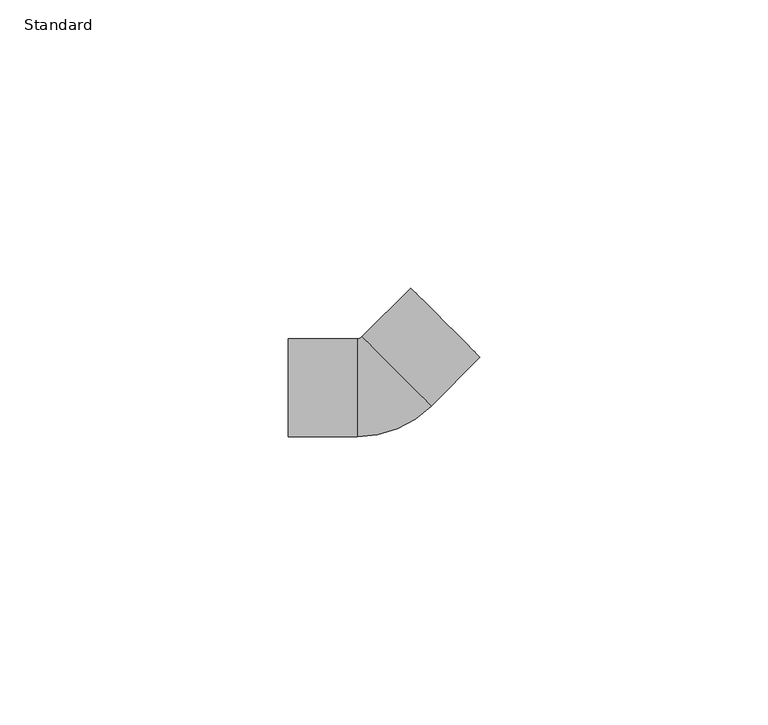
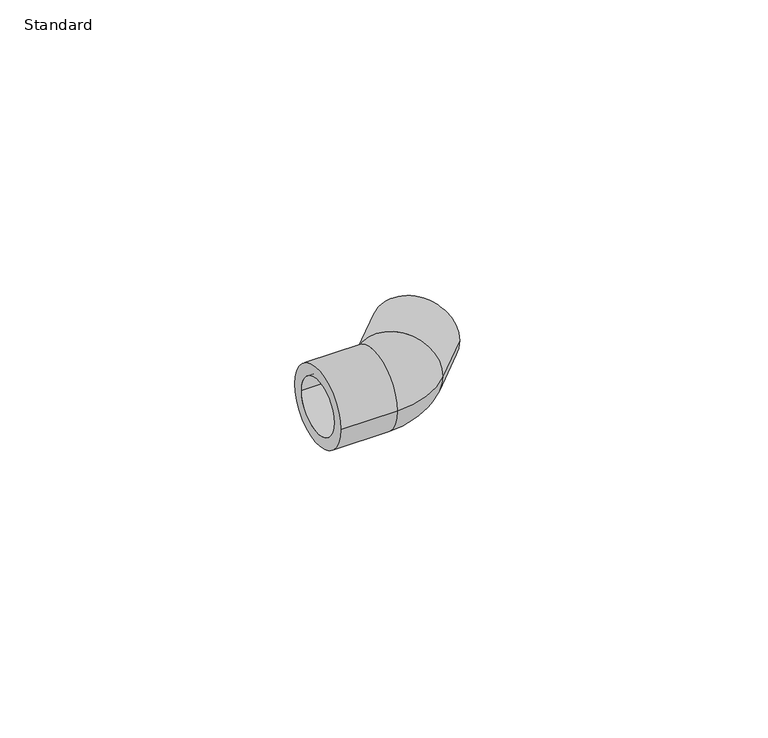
"""IFC4 building model written with IfcOpenShell, lengths in millimetres: pipe fitting geometry, Durapipe_PipeFitting_PVC_Elbow45deg : Standard."""

from ifc_helpers import new_model, si_unit, point, frame, origin, place, context, project, spatial, polyline, circle_curve, ellipse_curve, trimmed, source, transform, mapped, element, save
from ifc_brep_helpers import plane_surface, cylinder_surface, revolved_surface, advanced_brep


def standard_bef04e3c(model_context):
    return source(origin(), model_context, "Body", "AdvancedBrep", [
        advanced_brep(
        [(-16.0, -8.5, 0.0), (-16.0, 8.5, 0.0), (-16.0, -6.0, 0.0), (-16.0, 6.0, 0.0), (-4.0208153, -8.5, 0.0), (-4.0208153, 8.5, 0.0), (8.8535534, -3.1672619, 0.0), (-3.1672619, 8.8535534, 0.0), (17.3241161, 5.3033009, 0.0), (5.3033009, 17.3241161, 0.0), (7.0710678, 15.5563492, 0.0), (15.5563492, 7.0710678, 0.0), (-4.0, 6.0, 0.0), (-4.0, -6.0, 0.0), (-4.0, 0.0, 0.0), (-1.4142136, 7.0710678, 0.0), (2.8284271, 2.8284271, 0.0), (7.0710678, -1.4142136, 0.0)],
        [
            (0, 1, circle_curve(frame((-16.0, 0.0, 0.0), z_axis=(-1.0, 0.0, 0.0), x_axis=(0.0, 1.0, 0.0)), 8.5)),
            (1, 0, circle_curve(frame((-16.0, 0.0, 0.0), z_axis=(-1.0, 0.0, 0.0), x_axis=(0.0, 1.0, 0.0)), 8.5)),
            (2, 3, circle_curve(frame((-16.0, 0.0, 0.0), z_axis=(1.0, 0.0, 0.0), x_axis=(0.0, -1.0, 0.0)), 6.0)),
            (3, 2, circle_curve(frame((-16.0, 0.0, 0.0), z_axis=(1.0, 0.0, 0.0), x_axis=(0.0, -1.0, 0.0)), 6.0)),
            (0, 4),
            (4, 5, circle_curve(frame((-4.0208153, 0.0, 0.0), z_axis=(-1.0, 0.0, 0.0), x_axis=(0.0, 1.0, 0.0)), 8.5)),
            (5, 1),
            (5, 4, circle_curve(frame((-4.0208153, 0.0, 0.0), z_axis=(-1.0, 0.0, 0.0), x_axis=(0.0, 1.0, 0.0)), 8.5)),
            (4, 6, circle_curve(frame((-4.0208153, 9.7071068, 0.0), z_axis=(0.0, 0.0, 1.0), x_axis=(0.0, -1.0, 0.0)), 18.2071068)),
            (6, 7, circle_curve(frame((2.8431458, 2.8431458, 0.0), z_axis=(-0.707106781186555, -0.70710678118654, 0.0), x_axis=(-0.70710678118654, 0.707106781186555, 0.0)), 8.5)),
            (7, 5, circle_curve(frame((-4.0208153, 9.7071068, 0.0), z_axis=(0.0, 0.0, -1.0), x_axis=(0.0, -1.0, 0.0)), 1.2071068)),
            (7, 6, circle_curve(frame((2.8431458, 2.8431458, 0.0), z_axis=(-0.7071067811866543, -0.7071067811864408, 0.0), x_axis=(-0.7071067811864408, 0.7071067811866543, 0.0)), 8.5)),
            (8, 9, circle_curve(frame((11.3137085, 11.3137085, 0.0), z_axis=(0.7071067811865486, 0.7071067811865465, 0.0), x_axis=(-0.7071067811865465, 0.7071067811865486, 0.0)), 8.5)),
            (9, 8, circle_curve(frame((11.3137085, 11.3137085, 0.0), z_axis=(0.7071067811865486, 0.7071067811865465, 0.0), x_axis=(-0.7071067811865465, 0.7071067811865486, 0.0)), 8.5)),
            (10, 11, circle_curve(frame((11.3137085, 11.3137085, 0.0), z_axis=(-0.707106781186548, -0.707106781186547, 0.0), x_axis=(0.707106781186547, -0.707106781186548, 0.0)), 6.0)),
            (11, 10, circle_curve(frame((11.3137085, 11.3137085, 0.0), z_axis=(-0.707106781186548, -0.707106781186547, 0.0), x_axis=(0.707106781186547, -0.707106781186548, 0.0)), 6.0)),
            (6, 8),
            (9, 7),
            (12, 3),
            (2, 13),
            (13, 12, circle_curve(frame((-4.0, 0.0, 0.0), z_axis=(1.0, 0.0, 0.0), x_axis=(0.0, -1.0, 0.0)), 6.0)),
            (12, 13, circle_curve(frame((-4.0, 0.0, 0.0), z_axis=(1.0, 0.0, 0.0), x_axis=(0.0, -1.0, 0.0)), 6.0)),
            (13, 14),
            (14, 12),
            (15, 16),
            (16, 17),
            (17, 15, circle_curve(frame((2.8284271, 2.8284271, 0.0), z_axis=(0.707106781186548, 0.707106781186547, 0.0), x_axis=(0.707106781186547, -0.707106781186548, 0.0)), 6.0)),
            (15, 17, circle_curve(frame((2.8284271, 2.8284271, 0.0), z_axis=(0.707106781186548, 0.707106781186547, 0.0), x_axis=(0.707106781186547, -0.707106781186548, 0.0)), 6.0)),
            (17, 11),
            (10, 15),
        ],
        [
            plane_surface(frame((-16.0, 0.0, 0.0), z_axis=(-1.0, 0.0, 0.0), x_axis=(0.0, 0.0, 1.0))),
            cylinder_surface(frame((-16.0, 0.0, 0.0), z_axis=(-1.0, 0.0, 0.0), x_axis=(0.0, 1.0, 0.0)), 8.5),
            revolved_surface(trimmed(ellipse_curve(frame((-4.0208153, 0.0, 0.0), z_axis=(-1.0, 0.0, 0.0), x_axis=(0.0, 1.0, 0.0)), 8.5, 8.5), [point((-4.0208153, -8.5, 0.0))], [point((-4.0208153, 8.5, 0.0))], True, "CARTESIAN"), (-4.0208153, 9.7071068, 0.0), (0.0, 0.0, 1.0)),
            revolved_surface(trimmed(ellipse_curve(frame((-4.0208153, 0.0, 0.0), z_axis=(-1.0, 0.0, 0.0), x_axis=(0.0, 1.0, 0.0)), 8.5, 8.5), [point((-4.0208153, 8.5, 0.0))], [point((-4.0208153, -8.5, 0.0))], True, "CARTESIAN"), (-4.0208153, 9.7071068, 0.0), (0.0, 0.0, 1.0)),
            plane_surface(frame((11.3137085, 11.3137085, 0.0), z_axis=(0.7071067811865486, 0.7071067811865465, 0.0), x_axis=(0.0, 0.0, 1.0))),
            cylinder_surface(frame((2.8431458, 2.8431458, 0.0), z_axis=(-0.7071067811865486, -0.7071067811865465, 0.0), x_axis=(-0.7071067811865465, 0.7071067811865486, 0.0)), 8.5),
            revolved_surface(polyline([(-4.0, -6.0, 0.0), (-16.0, -6.0, 0.0)]), (2000.0, 0.0, 0.0), (1.0, 0.0, 0.0)),
            plane_surface(frame((-4.0, 0.0, 0.0), z_axis=(-1.0, 0.0, 0.0), x_axis=(0.0, -1.0, 0.0))),
            plane_surface(frame((2.8284271, 2.8284271, 0.0), z_axis=(0.707106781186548, 0.707106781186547, 0.0), x_axis=(0.707106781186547, -0.707106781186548, 0.0))),
            revolved_surface(polyline([(15.556349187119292, 7.071067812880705, 0.0), (7.071067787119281, -1.4142135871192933, 0.0)]), (0.0, 0.0, 0.0), (0.707106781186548, 0.707106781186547, 0.0)),
        ],
        [
            (0, [[1, 2], [3, 4]]),
            (1, [[-1, 5, 6, 7]]),
            (1, [[-2, -7, 8, -5]]),
            (2, [[-6, 9, 10, 11]]),
            (3, [[-8, -11, 12, -9]]),
            (4, [[13, 14], [15, 16]]),
            (5, [[-10, 17, -14, 18]]),
            (5, [[-12, -18, -13, -17]]),
            (6, [[19, -3, 20, 21]]),
            (6, [[-19, 22, -20, -4]]),
            (7, [[-21, 23, 24]]),
            (7, [[-22, -24, -23]]),
            (8, [[25, 26, 27]]),
            (8, [[-25, 28, -26]]),
            (9, [[-27, 29, -15, 30]]),
            (9, [[-28, -30, -16, -29]]),
        ],
    ),
    ])


if __name__ == "__main__":
    model = new_model("IFC4")
    model_context = context("Model", 3, world=origin())
    ifc_project = project(units=[si_unit("LENGTHUNIT", "METRE", prefix="MILLI")], contexts=[model_context])
    site = spatial("IfcSite", under=ifc_project)
    building = spatial("IfcBuilding", under=site)
    placement = place(None, origin())
    standard_shape = standard_bef04e3c(model_context)
    element("IfcPipeFitting", 1, ObjectType="Durapipe_PipeFitting_PVC_Elbow45deg : Standard", at=placement, inside=building, context=model_context, shape_type="MappedRepresentation", body=[
        mapped(standard_shape, transform((0.0, 0.0, 0.0), x_axis=(1.0, 0.0, 0.0), y_axis=(0.0, 1.0, 0.0), z_axis=(0.0, 0.0, 1.0))),
    ])
    save(model, "model.ifc")
